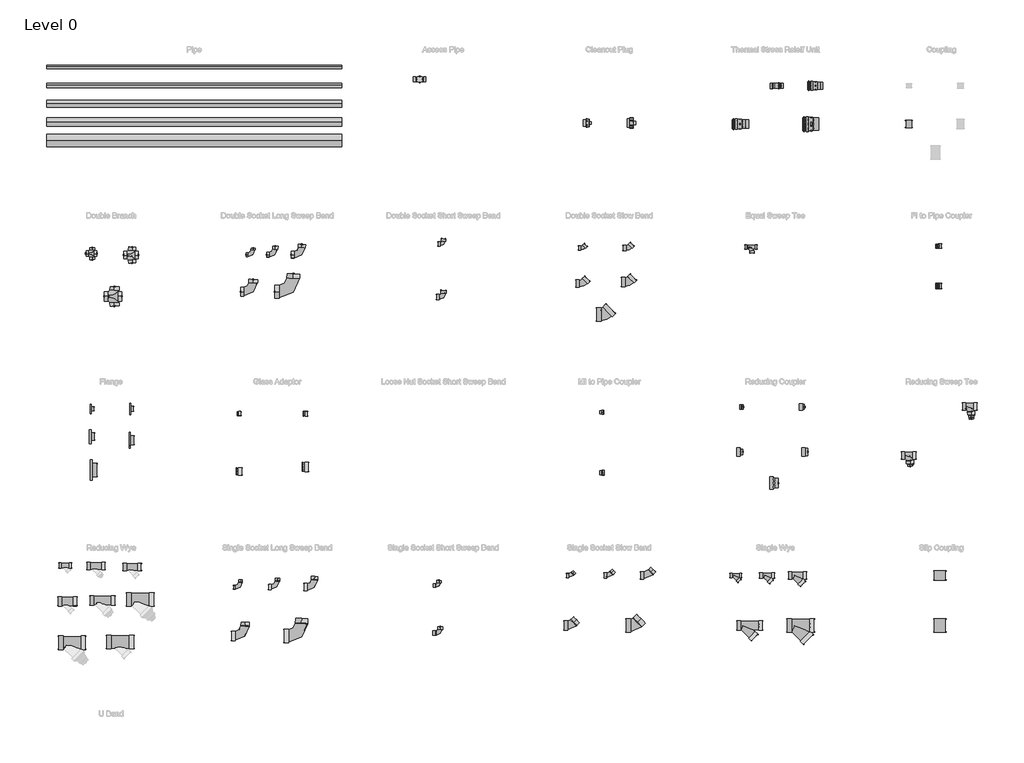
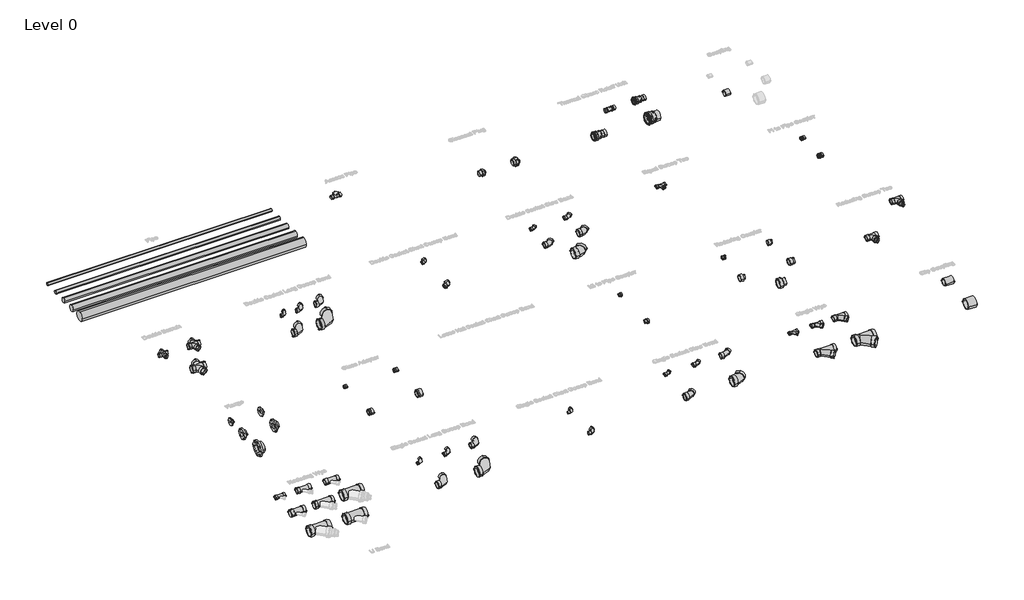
# One storey, part 1 of 10: 71 pipe fittings, 5 pipe segments.
"""IFC4 building model written with IfcOpenShell, lengths in millimetres."""

from ifc_helpers import new_model, si_unit, point, frame, frame_2d, origin, place, context, project, spatial, circle_curve, trimmed, segment, composite_curve, outline, extrude, transform, mapped, element, save
from components import l141_38mm_0ffd552d, l142_51mm_4ce51af9, l151_38mm_5ce0dcf7, l152_51mm_e40eead8, l163_76mm_98f3493b, l164_s_102mm_13951113, l166_s_152mm_c7d2f9af, l171_38mm_267e390a, l172_51mm_e80dca4b, l173_76mm_c5a6e707, l174_102mm_c659d813, l176_152mm_db715026, l181_38mm_b93e07b0, l182_51mm_86aa85f2, l191_38mm_5e0583e1, l192_51mm_1da5b1f7, l193_76mm_1ed979b7, l194_102mm_25cd8729, l196_152mm_a0f9f9bf, l201_38mm_3360234d, l2031_76x76x38mm_6f6c5ed2, l2031_76x76x38mm_b17d972e, l2032_76x76x51mm_12356ed6, l2032_76x76x51mm_d3f29df9, l211_38mm_e0d01717, l212_51mm_df6e6011, l213_76mm_04a1a28b, l214_102mm_08f92101, l216_152mm_cca97ca3, l243_76mm_0481b0c5, l244_102mm_bb0a7bc2, l281_38mm_a0d47e34, l282_51mm_e2ee95dc, l283_76mm_a17f63d7, l284_102mm_153ca288, l286_152mm_ffb08b69, l291_38mm_34a5a30e, l292_51mm_6f686604, l352_51mm_22d35eec, l352_51mm_6a39cfd9, l353_76mm_47fd45bb, l353_76mm_fc432c4a, l354_102mm_f6dbf391, l354_102mm_241b6396, l371_38mm_ee0c1067, l3721_51x51x38mm_4155e39b, l372_51mm_42e2e45f, l3731_76x76x38mm_20f7461c, l373_76mm_3f97b690, l3742_102x102x51mm_a3f06ccc, l3743_102x102x76mm_b6f7215f, l374_102mm_1b7b02f5, l3762_152x152x51mm_5c1595e7, l376_152mm_07512c7d, l3912_51x38mm_b977fdc1, l3923_76x51mm_51930300, l3924_102x51mm_bab0a69e, l3934_102x76mm_afa478de, l3946_152x102mm_5eb670cd, l401_38mm_f3e5b10d, l402_51mm_f2329d77, l403_76mm_9551e2b0, l404_102mm_889d63c8, l406_152mm_0153d5b7, l451_38mm_612f0f0e, l452_51mm_fd796921, l453_76mm_ac4e316f, l454_102mm_f763a294, l802_51mm_1347b56c, l803_76mm_d1b0d75b, l804_102mm_cf3d4d88, l806_152mm_c43d5f0f, l902_51mm_cfe6408b

model = new_model("IFC4")

# Units and contexts
model_context = context("Model", 3, world=origin())
ifc_project = project(units=[si_unit("LENGTHUNIT", "METRE", prefix="MILLI")], contexts=[model_context])

# Site, building, storey
site = spatial("IfcSite", under=ifc_project)
building = spatial("IfcBuilding", under=site)
storey = spatial("IfcBuildingStorey", under=building, Name="Level 0", Elevation=0.0)

# Pipe fittings
placement = place(None, origin())
l141_38mm_shape = l141_38mm_0ffd552d(model_context)
element("IfcPipeFitting", 1, ObjectType="Durapipe_PipeFitting_VulcatheneEnfusion_MItoPipeCoupler_L14 : L141_38mm", at=placement, inside=storey, context=model_context, shape_type="MappedRepresentation", body=[
    mapped(l141_38mm_shape, transform((-385.4847954, 726.6243175, 0.0), x_axis=(1.0, 0.0, 0.0), y_axis=(0.0, 1.0, 0.0), z_axis=(0.0, 0.0, 1.0))),
])
l142_51mm_shape = l142_51mm_4ce51af9(model_context)
element("IfcPipeFitting", 2, ObjectType="Durapipe_PipeFitting_VulcatheneEnfusion_MItoPipeCoupler_L14 : L142_51mm", at=placement, inside=storey, context=model_context, shape_type="MappedRepresentation", body=[
    mapped(l142_51mm_shape, transform((-385.4847954, -93.3756825, 0.0), x_axis=(1.0, 0.0, 0.0), y_axis=(0.0, 1.0, 0.0), z_axis=(0.0, 0.0, 1.0))),
])
l151_38mm_shape = l151_38mm_5ce0dcf7(model_context)
element("IfcPipeFitting", 3, ObjectType="Durapipe_PipeFitting_VulcatheneEnfusion_FItoPipeCoupler_L15 : L151_38mm", at=placement, inside=storey, context=model_context, shape_type="MappedRepresentation", body=[
    mapped(l151_38mm_shape, transform((4174.5152046, 2976.6243175, 0.0), x_axis=(1.0, 0.0, 0.0), y_axis=(0.0, 1.0, 0.0), z_axis=(0.0, 0.0, 1.0))),
])
l152_51mm_shape = l152_51mm_e40eead8(model_context)
element("IfcPipeFitting", 4, ObjectType="Durapipe_PipeFitting_VulcatheneEnfusion_FItoPipeCoupler_L15 : L152_51mm", at=placement, inside=storey, context=model_context, shape_type="MappedRepresentation", body=[
    mapped(l152_51mm_shape, transform((4174.5152046, 2436.6243175, 0.0), x_axis=(1.0, 0.0, 0.0), y_axis=(0.0, 1.0, 0.0), z_axis=(0.0, 0.0, 1.0))),
])
l163_76mm_shape = l163_76mm_98f3493b(model_context)
element("IfcPipeFitting", 5, ObjectType="Durapipe_PipeFitting_VulcatheneEnfusion_Coupling_L16 : L163_76mm", at=placement, inside=storey, context=model_context, shape_type="MappedRepresentation", body=[
    mapped(l163_76mm_shape, transform((3774.5152046, 4630.3388732, 0.0), x_axis=(1.0, 0.0, 0.0), y_axis=(0.0, 1.0, 0.0), z_axis=(0.0, 0.0, 1.0))),
])
l164_s_102mm_shape = l164_s_102mm_13951113(model_context)
element("IfcPipeFitting", 6, ObjectType="Durapipe_PipeFitting_VulcatheneEnfusion_SlipCoupling_L16S : L164(S)_102mm", at=placement, inside=storey, context=model_context, shape_type="MappedRepresentation", body=[
    mapped(l164_s_102mm_shape, transform((4194.5152046, -1483.3756825, 0.0), x_axis=(1.0, 0.0, 0.0), y_axis=(0.0, 1.0, 0.0), z_axis=(0.0, 0.0, 1.0))),
])
l166_s_152mm_shape = l166_s_152mm_c7d2f9af(model_context)
element("IfcPipeFitting", 7, ObjectType="Durapipe_PipeFitting_VulcatheneEnfusion_SlipCoupling_L16S : L166(S)_152mm", at=placement, inside=storey, context=model_context, shape_type="MappedRepresentation", body=[
    mapped(l166_s_152mm_shape, transform((4194.5152046, -2163.3756825, 0.0), x_axis=(1.0, 0.0, 0.0), y_axis=(0.0, 1.0, 0.0), z_axis=(0.0, 0.0, 1.0))),
])
l171_38mm_shape = l171_38mm_267e390a(model_context)
element("IfcPipeFitting", 8, ObjectType="Durapipe_PipeFitting_VulcatheneEnfusion_DoubleSocketLongSweepBend_L17 : L171_38mm", at=placement, inside=storey, context=model_context, shape_type="MappedRepresentation", body=[
    mapped(l171_38mm_shape, transform((-5115.4378919, 2861.1723534, 0.0), x_axis=(1.0, 0.0, 0.0), y_axis=(0.0, 1.0, 0.0), z_axis=(0.0, 0.0, 1.0))),
])
l172_51mm_shape = l172_51mm_e80dca4b(model_context)
element("IfcPipeFitting", 9, ObjectType="Durapipe_PipeFitting_VulcatheneEnfusion_DoubleSocketLongSweepBend_L17 : L172_51mm", at=placement, inside=storey, context=model_context, shape_type="MappedRepresentation", body=[
    mapped(l172_51mm_shape, transform((-4815.4378919, 2861.1723534, 0.0), x_axis=(1.0, 0.0, 0.0), y_axis=(0.0, 1.0, 0.0), z_axis=(0.0, 0.0, 1.0))),
])
l173_76mm_shape = l173_76mm_c5a6e707(model_context)
element("IfcPipeFitting", 10, ObjectType="Durapipe_PipeFitting_VulcatheneEnfusion_DoubleSocketLongSweepBend_L17 : L173_76mm", at=placement, inside=storey, context=model_context, shape_type="MappedRepresentation", body=[
    mapped(l173_76mm_shape, transform((-4455.4378919, 2861.1723534, 0.0), x_axis=(1.0, 0.0, 0.0), y_axis=(0.0, 1.0, 0.0), z_axis=(0.0, 0.0, 1.0))),
])
l174_102mm_shape = l174_102mm_c659d813(model_context)
element("IfcPipeFitting", 11, ObjectType="Durapipe_PipeFitting_VulcatheneEnfusion_DoubleSocketLongSweepBend_L17 : L174_102mm", at=placement, inside=storey, context=model_context, shape_type="MappedRepresentation", body=[
    mapped(l174_102mm_shape, transform((-5115.4378919, 2361.1723534, 0.0), x_axis=(1.0, 0.0, 0.0), y_axis=(0.0, 1.0, 0.0), z_axis=(0.0, 0.0, 1.0))),
])
l176_152mm_shape = l176_152mm_db715026(model_context)
element("IfcPipeFitting", 12, ObjectType="Durapipe_PipeFitting_VulcatheneEnfusion_DoubleSocketLongSweepBend_L17 : L176_152mm", at=placement, inside=storey, context=model_context, shape_type="MappedRepresentation", body=[
    mapped(l176_152mm_shape, transform((-4575.4378919, 2361.1723534, 0.0), x_axis=(1.0, 0.0, 0.0), y_axis=(0.0, 1.0, 0.0), z_axis=(0.0, 0.0, 1.0))),
])
l181_38mm_shape = l181_38mm_b93e07b0(model_context)
element("IfcPipeFitting", 13, ObjectType="Durapipe_PipeFitting_VulcatheneEnfusion_DoubleSocketShortSweepBend_L18 : L181_38mm", at=placement, inside=storey, context=model_context, shape_type="MappedRepresentation", body=[
    mapped(l181_38mm_shape, transform((-2535.4847954, 3006.6243175, 0.0), x_axis=(1.0, 0.0, 0.0), y_axis=(0.0, 1.0, 0.0), z_axis=(0.0, 0.0, 1.0))),
])
l182_51mm_shape = l182_51mm_86aa85f2(model_context)
element("IfcPipeFitting", 14, ObjectType="Durapipe_PipeFitting_VulcatheneEnfusion_DoubleSocketShortSweepBend_L18 : L182_51mm", at=placement, inside=storey, context=model_context, shape_type="MappedRepresentation", body=[
    mapped(l182_51mm_shape, transform((-2535.4847954, 2286.6243175, 0.0), x_axis=(1.0, 0.0, 0.0), y_axis=(0.0, 1.0, 0.0), z_axis=(0.0, 0.0, 1.0))),
])
l191_38mm_shape = l191_38mm_5e0583e1(model_context)
element("IfcPipeFitting", 15, ObjectType="Durapipe_PipeFitting_VulcatheneEnfusion_DoubleSocketSlowBend_L19 : L191_38mm", at=placement, inside=storey, context=model_context, shape_type="MappedRepresentation", body=[
    mapped(l191_38mm_shape, transform((-645.4847954, 2951.6243175, 0.0), x_axis=(1.0, 0.0, 0.0), y_axis=(0.0, 1.0, 0.0), z_axis=(0.0, 0.0, 1.0))),
])
l192_51mm_shape = l192_51mm_1da5b1f7(model_context)
element("IfcPipeFitting", 16, ObjectType="Durapipe_PipeFitting_VulcatheneEnfusion_DoubleSocketSlowBend_L19 : L192_51mm", at=placement, inside=storey, context=model_context, shape_type="MappedRepresentation", body=[
    mapped(l192_51mm_shape, transform((-25.4847954, 2951.6243175, 0.0), x_axis=(1.0, 0.0, 0.0), y_axis=(0.0, 1.0, 0.0), z_axis=(0.0, 0.0, 1.0))),
])
l193_76mm_shape = l193_76mm_1ed979b7(model_context)
element("IfcPipeFitting", 17, ObjectType="Durapipe_PipeFitting_VulcatheneEnfusion_DoubleSocketSlowBend_L19 : L193_76mm", at=placement, inside=storey, context=model_context, shape_type="MappedRepresentation", body=[
    mapped(l193_76mm_shape, transform((-645.4847954, 2471.6243175, 0.0), x_axis=(1.0, 0.0, 0.0), y_axis=(0.0, 1.0, 0.0), z_axis=(0.0, 0.0, 1.0))),
])
l194_102mm_shape = l194_102mm_25cd8729(model_context)
element("IfcPipeFitting", 18, ObjectType="Durapipe_PipeFitting_VulcatheneEnfusion_DoubleSocketSlowBend_L19 : L194_102mm", at=placement, inside=storey, context=model_context, shape_type="MappedRepresentation", body=[
    mapped(l194_102mm_shape, transform((-25.4847954, 2491.6243175, 0.0), x_axis=(1.0, 0.0, 0.0), y_axis=(0.0, 1.0, 0.0), z_axis=(0.0, 0.0, 1.0))),
])
l196_152mm_shape = l196_152mm_a0f9f9bf(model_context)
element("IfcPipeFitting", 19, ObjectType="Durapipe_PipeFitting_VulcatheneEnfusion_DoubleSocketSlowBend_L19 : L196_152mm", at=placement, inside=storey, context=model_context, shape_type="MappedRepresentation", body=[
    mapped(l196_152mm_shape, transform((-345.4847954, 2051.6243175, 0.0), x_axis=(1.0, 0.0, 0.0), y_axis=(0.0, 1.0, 0.0), z_axis=(0.0, 0.0, 1.0))),
])
l201_38mm_shape = l201_38mm_3360234d(model_context)
element("IfcPipeFitting", 20, ObjectType="Durapipe_PipeFitting_VulcatheneEnfusion_EqualSweepTee_L20 : L201_38mm", at=placement, inside=storey, context=model_context, shape_type="MappedRepresentation", body=[
    mapped(l201_38mm_shape, transform((1644.5152046, 2966.6243175, 0.0), x_axis=(1.0, 0.0, 0.0), y_axis=(0.0, 1.0, 0.0), z_axis=(0.0, 0.0, 1.0))),
])
l2031_76x76x38mm_shape = l2031_76x76x38mm_6f6c5ed2(model_context)
l2031_76x76x38mm_2_shape = l2031_76x76x38mm_b17d972e(model_context)
element("IfcPipeFitting", 21, ObjectType="Durapipe_PipeFitting_VulcatheneEnfusion_ReducingSweepTee_L20 : L2031_76x76x38mm", at=placement, inside=storey, context=model_context, shape_type="MappedRepresentation", body=[
    mapped(l2031_76x76x38mm_shape, transform((4614.5152046, 806.6243175, 0.0), x_axis=(1.0, 0.0, 0.0), y_axis=(0.0, 1.0, 0.0), z_axis=(0.0, 0.0, 1.0))),
    mapped(l2031_76x76x38mm_2_shape, transform((4614.5152046, 806.6243175, 0.0), x_axis=(1.0, 0.0, 0.0), y_axis=(0.0, 1.0, 0.0), z_axis=(0.0, 0.0, 1.0))),
])
l2032_76x76x51mm_shape = l2032_76x76x51mm_12356ed6(model_context)
l2032_76x76x51mm_2_shape = l2032_76x76x51mm_d3f29df9(model_context)
element("IfcPipeFitting", 22, ObjectType="Durapipe_PipeFitting_VulcatheneEnfusion_ReducingSweepTee_L20 : L2032_76x76x51mm", at=placement, inside=storey, context=model_context, shape_type="MappedRepresentation", body=[
    mapped(l2032_76x76x51mm_shape, transform((3787.0099501, 143.0899034, 0.0), x_axis=(1.0, 0.0, 0.0), y_axis=(0.0, 1.0, 0.0), z_axis=(0.0, 0.0, 1.0))),
    mapped(l2032_76x76x51mm_2_shape, transform((3787.0099501, 143.0899034, 0.0), x_axis=(1.0, 0.0, 0.0), y_axis=(0.0, 1.0, 0.0), z_axis=(0.0, 0.0, 1.0))),
])
l211_38mm_shape = l211_38mm_e0d01717(model_context)
element("IfcPipeFitting", 23, ObjectType="Durapipe_PipeFitting_VulcatheneEnfusion_SingleSocketSlowBend_L21 : L211_38mm", at=placement, inside=storey, context=model_context, shape_type="MappedRepresentation", body=[
    mapped(l211_38mm_shape, transform((-805.4847954, -1483.3756825, 0.0), x_axis=(1.0, 0.0, 0.0), y_axis=(0.0, 1.0, 0.0), z_axis=(0.0, 0.0, 1.0))),
])
l212_51mm_shape = l212_51mm_df6e6011(model_context)
element("IfcPipeFitting", 24, ObjectType="Durapipe_PipeFitting_VulcatheneEnfusion_SingleSocketSlowBend_L21 : L212_51mm", at=placement, inside=storey, context=model_context, shape_type="MappedRepresentation", body=[
    mapped(l212_51mm_shape, transform((-285.4847954, -1483.3756825, 0.0), x_axis=(1.0, 0.0, 0.0), y_axis=(0.0, 1.0, 0.0), z_axis=(0.0, 0.0, 1.0))),
])
l213_76mm_shape = l213_76mm_04a1a28b(model_context)
element("IfcPipeFitting", 25, ObjectType="Durapipe_PipeFitting_VulcatheneEnfusion_SingleSocketSlowBend_L21 : L213_76mm", at=placement, inside=storey, context=model_context, shape_type="MappedRepresentation", body=[
    mapped(l213_76mm_shape, transform((234.5152046, -1483.3756825, 0.0), x_axis=(1.0, 0.0, 0.0), y_axis=(0.0, 1.0, 0.0), z_axis=(0.0, 0.0, 1.0))),
])
l214_102mm_shape = l214_102mm_08f92101(model_context)
element("IfcPipeFitting", 26, ObjectType="Durapipe_PipeFitting_VulcatheneEnfusion_SingleSocketSlowBend_L21 : L214_102mm", at=placement, inside=storey, context=model_context, shape_type="MappedRepresentation", body=[
    mapped(l214_102mm_shape, transform((-805.4847954, -2163.3756825, 0.0), x_axis=(1.0, 0.0, 0.0), y_axis=(0.0, 1.0, 0.0), z_axis=(0.0, 0.0, 1.0))),
])
l216_152mm_shape = l216_152mm_cca97ca3(model_context)
element("IfcPipeFitting", 27, ObjectType="Durapipe_PipeFitting_VulcatheneEnfusion_SingleSocketSlowBend_L21 : L216_152mm", at=placement, inside=storey, context=model_context, shape_type="MappedRepresentation", body=[
    mapped(l216_152mm_shape, transform((54.5152046, -2163.3756825, 0.0), x_axis=(1.0, 0.0, 0.0), y_axis=(0.0, 1.0, 0.0), z_axis=(0.0, 0.0, 1.0))),
])
l243_76mm_shape = l243_76mm_0481b0c5(model_context)
element("IfcPipeFitting", 28, ObjectType="Durapipe_PipeFitting_VulcatheneEnfusion_CleanoutPlug_L24 : L243_76mm", at=placement, inside=storey, context=model_context, shape_type="MappedRepresentation", body=[
    mapped(l243_76mm_shape, transform((-585.4847954, 4646.6243175, 0.0), x_axis=(1.0, 0.0, 0.0), y_axis=(0.0, 1.0, 0.0), z_axis=(0.0, 0.0, 1.0))),
])
l244_102mm_shape = l244_102mm_bb0a7bc2(model_context)
element("IfcPipeFitting", 29, ObjectType="Durapipe_PipeFitting_VulcatheneEnfusion_CleanoutPlug_L24 : L244_102mm", at=placement, inside=storey, context=model_context, shape_type="MappedRepresentation", body=[
    mapped(l244_102mm_shape, transform((14.5152046, 4646.6243175, 0.0), x_axis=(1.0, 0.0, 0.0), y_axis=(0.0, 1.0, 0.0), z_axis=(0.0, 0.0, 1.0))),
])
l281_38mm_shape = l281_38mm_a0d47e34(model_context)
element("IfcPipeFitting", 30, ObjectType="Durapipe_PipeFitting_VulcatheneEnfusion_SingleSocketLongSweepBend_L28 : L281_38mm", at=placement, inside=storey, context=model_context, shape_type="MappedRepresentation", body=[
    mapped(l281_38mm_shape, transform((-5285.4847954, -1643.3756825, 0.0), x_axis=(1.0, 0.0, 0.0), y_axis=(0.0, 1.0, 0.0), z_axis=(0.0, 0.0, 1.0))),
])
l282_51mm_shape = l282_51mm_e2ee95dc(model_context)
element("IfcPipeFitting", 31, ObjectType="Durapipe_PipeFitting_VulcatheneEnfusion_SingleSocketLongSweepBend_L28 : L282_51mm", at=placement, inside=storey, context=model_context, shape_type="MappedRepresentation", body=[
    mapped(l282_51mm_shape, transform((-4785.4847954, -1643.3756825, 0.0), x_axis=(1.0, 0.0, 0.0), y_axis=(0.0, 1.0, 0.0), z_axis=(0.0, 0.0, 1.0))),
])
l283_76mm_shape = l283_76mm_a17f63d7(model_context)
element("IfcPipeFitting", 32, ObjectType="Durapipe_PipeFitting_VulcatheneEnfusion_SingleSocketLongSweepBend_L28 : L283_76mm", at=placement, inside=storey, context=model_context, shape_type="MappedRepresentation", body=[
    mapped(l283_76mm_shape, transform((-4285.4847954, -1643.3756825, 0.0), x_axis=(1.0, 0.0, 0.0), y_axis=(0.0, 1.0, 0.0), z_axis=(0.0, 0.0, 1.0))),
])
l284_102mm_shape = l284_102mm_153ca288(model_context)
element("IfcPipeFitting", 33, ObjectType="Durapipe_PipeFitting_VulcatheneEnfusion_SingleSocketLongSweepBend_L28 : L284_102mm", at=placement, inside=storey, context=model_context, shape_type="MappedRepresentation", body=[
    mapped(l284_102mm_shape, transform((-5225.4847954, -2303.3756825, 0.0), x_axis=(1.0, 0.0, 0.0), y_axis=(0.0, 1.0, 0.0), z_axis=(0.0, 0.0, 1.0))),
])
l286_152mm_shape = l286_152mm_ffb08b69(model_context)
element("IfcPipeFitting", 34, ObjectType="Durapipe_PipeFitting_VulcatheneEnfusion_SingleSocketLongSweepBend_L28 : L286_152mm", at=placement, inside=storey, context=model_context, shape_type="MappedRepresentation", body=[
    mapped(l286_152mm_shape, transform((-4465.4847954, -2303.3756825, 0.0), x_axis=(1.0, 0.0, 0.0), y_axis=(0.0, 1.0, 0.0), z_axis=(0.0, 0.0, 1.0))),
])
l291_38mm_shape = l291_38mm_34a5a30e(model_context)
element("IfcPipeFitting", 35, ObjectType="Durapipe_PipeFitting_VulcatheneEnfusion_SingleSocketShortSweepBend_L29 : L291_38mm", at=placement, inside=storey, context=model_context, shape_type="MappedRepresentation", body=[
    mapped(l291_38mm_shape, transform((-2594.6065384, -1622.0052795, 0.0), x_axis=(1.0, 0.0, 0.0), y_axis=(0.0, 1.0, 0.0), z_axis=(0.0, 0.0, 1.0))),
])
l292_51mm_shape = l292_51mm_6f686604(model_context)
element("IfcPipeFitting", 36, ObjectType="Durapipe_PipeFitting_VulcatheneEnfusion_SingleSocketShortSweepBend_L29 : L292_51mm", at=placement, inside=storey, context=model_context, shape_type="MappedRepresentation", body=[
    mapped(l292_51mm_shape, transform((-2579.5496555, -2264.1921647, 0.0), x_axis=(1.0, 0.0, 0.0), y_axis=(0.0, 1.0, 0.0), z_axis=(0.0, 0.0, 1.0))),
])
l352_51mm_shape = l352_51mm_22d35eec(model_context)
l352_51mm_2_shape = l352_51mm_6a39cfd9(model_context)
element("IfcPipeFitting", 37, ObjectType="Durapipe_PipeFitting_VulcatheneEnfusion_DoubleBranch_L35 : L352_51mm", at=placement, inside=storey, context=model_context, shape_type="MappedRepresentation", body=[
    mapped(l352_51mm_shape, transform((-7295.4847954, 2876.6243175, 0.0), x_axis=(1.0, 0.0, 0.0), y_axis=(0.0, 1.0, 0.0), z_axis=(0.0, 0.0, 1.0))),
    mapped(l352_51mm_2_shape, transform((-7295.4847954, 2876.6243175, 0.0), x_axis=(1.0, 0.0, 0.0), y_axis=(0.0, 1.0, 0.0), z_axis=(0.0, 0.0, 1.0))),
])
l353_76mm_shape = l353_76mm_47fd45bb(model_context)
l353_76mm_2_shape = l353_76mm_fc432c4a(model_context)
element("IfcPipeFitting", 38, ObjectType="Durapipe_PipeFitting_VulcatheneEnfusion_DoubleBranch_L35 : L353_76mm", at=placement, inside=storey, context=model_context, shape_type="MappedRepresentation", body=[
    mapped(l353_76mm_shape, transform((-6755.4847954, 2856.6243175, 0.0), x_axis=(1.0, 0.0, 0.0), y_axis=(0.0, 1.0, 0.0), z_axis=(0.0, 0.0, 1.0))),
    mapped(l353_76mm_2_shape, transform((-6755.4847954, 2856.6243175, 0.0), x_axis=(1.0, 0.0, 0.0), y_axis=(0.0, 1.0, 0.0), z_axis=(0.0, 0.0, 1.0))),
])
l354_102mm_shape = l354_102mm_f6dbf391(model_context)
l354_102mm_2_shape = l354_102mm_241b6396(model_context)
element("IfcPipeFitting", 39, ObjectType="Durapipe_PipeFitting_VulcatheneEnfusion_DoubleBranch_L35 : L354_102mm", at=placement, inside=storey, context=model_context, shape_type="MappedRepresentation", body=[
    mapped(l354_102mm_shape, transform((-6995.4847954, 2296.6243175, 0.0), x_axis=(1.0, 0.0, 0.0), y_axis=(0.0, 1.0, 0.0), z_axis=(0.0, 0.0, 1.0))),
    mapped(l354_102mm_2_shape, transform((-6995.4847954, 2296.6243175, 0.0), x_axis=(1.0, 0.0, 0.0), y_axis=(0.0, 1.0, 0.0), z_axis=(0.0, 0.0, 1.0))),
])
l371_38mm_shape = l371_38mm_ee0c1067(model_context)
element("IfcPipeFitting", 40, ObjectType="Durapipe_PipeFitting_VulcatheneEnfusion_SingleWye_L37 : L371_38mm", at=placement, inside=storey, context=model_context, shape_type="MappedRepresentation", body=[
    mapped(l371_38mm_shape, transform((1402.6049352, -1483.3756825, 0.0), x_axis=(1.0, 0.0, 0.0), y_axis=(0.0, 1.0, 0.0), z_axis=(0.0, 0.0, 1.0))),
])
l3721_51x51x38mm_shape = l3721_51x51x38mm_4155e39b(model_context)
element("IfcPipeFitting", 41, ObjectType="Durapipe_PipeFitting_VulcatheneEnfusion_SingleReducingWye_L37 : L3721_51x51x38mm", at=placement, inside=storey, context=model_context, shape_type="MappedRepresentation", body=[
    mapped(l3721_51x51x38mm_shape, transform((-7684.9184508, -1349.833701, 0.0), x_axis=(1.0, 0.0, 0.0), y_axis=(0.0, 1.0, 0.0), z_axis=(0.0, 0.0, 1.0))),
])
l372_51mm_shape = l372_51mm_42e2e45f(model_context)
element("IfcPipeFitting", 42, ObjectType="Durapipe_PipeFitting_VulcatheneEnfusion_SingleWye_L37 : L372_51mm", at=placement, inside=storey, context=model_context, shape_type="MappedRepresentation", body=[
    mapped(l372_51mm_shape, transform((1822.6049352, -1483.3756825, 0.0), x_axis=(1.0, 0.0, 0.0), y_axis=(0.0, 1.0, 0.0), z_axis=(0.0, 0.0, 1.0))),
])
l3731_76x76x38mm_shape = l3731_76x76x38mm_20f7461c(model_context)
element("IfcPipeFitting", 43, ObjectType="Durapipe_PipeFitting_VulcatheneEnfusion_SingleReducingWye_L37 : L3731_76x76x38mm", at=placement, inside=storey, context=model_context, shape_type="MappedRepresentation", body=[
    mapped(l3731_76x76x38mm_shape, transform((-7303.528328, -1356.5247558, 0.0), x_axis=(1.0, 0.0, 0.0), y_axis=(0.0, 1.0, 0.0), z_axis=(0.0, 0.0, 1.0))),
])
element("IfcPipeFitting", 44, ObjectType="Durapipe_PipeFitting_VulcatheneEnfusion_SingleReducingWye_L37 : L3732_76x76x51mm", at=placement, inside=storey, context=model_context, shape_type="MappedRepresentation", body=[
    mapped(l3731_76x76x38mm_shape, transform((-6811.7358014, -1369.9068654, 0.0), x_axis=(1.0, 0.0, 0.0), y_axis=(0.0, 1.0, 0.0), z_axis=(0.0, 0.0, 1.0))),
])
l373_76mm_shape = l373_76mm_3f97b690(model_context)
element("IfcPipeFitting", 45, ObjectType="Durapipe_PipeFitting_VulcatheneEnfusion_SingleWye_L37 : L373_76mm", at=placement, inside=storey, context=model_context, shape_type="MappedRepresentation", body=[
    mapped(l373_76mm_shape, transform((2222.6049352, -1483.3756825, 0.0), x_axis=(1.0, 0.0, 0.0), y_axis=(0.0, 1.0, 0.0), z_axis=(0.0, 0.0, 1.0))),
])
l3742_102x102x51mm_shape = l3742_102x102x51mm_a3f06ccc(model_context)
element("IfcPipeFitting", 46, ObjectType="Durapipe_PipeFitting_VulcatheneEnfusion_SingleReducingWye_L37 : L3742_102x102x51mm", at=placement, inside=storey, context=model_context, shape_type="MappedRepresentation", body=[
    mapped(l3742_102x102x51mm_shape, transform((-7704.9916151, -1834.9351729, 0.0), x_axis=(1.0, 0.0, 0.0), y_axis=(0.0, 1.0, 0.0), z_axis=(0.0, 0.0, 1.0))),
])
l3743_102x102x76mm_shape = l3743_102x102x76mm_b6f7215f(model_context)
element("IfcPipeFitting", 47, ObjectType="Durapipe_PipeFitting_VulcatheneEnfusion_SingleReducingWye_L37 : L3743_102x102x76mm", at=placement, inside=storey, context=model_context, shape_type="MappedRepresentation", body=[
    mapped(l3743_102x102x76mm_shape, transform((-7236.6177802, -1824.8985908, 0.0), x_axis=(1.0, 0.0, 0.0), y_axis=(0.0, 1.0, 0.0), z_axis=(0.0, 0.0, 1.0))),
])
l374_102mm_shape = l374_102mm_1b7b02f5(model_context)
element("IfcPipeFitting", 48, ObjectType="Durapipe_PipeFitting_VulcatheneEnfusion_SingleWye_L37 : L374_102mm", at=placement, inside=storey, context=model_context, shape_type="MappedRepresentation", body=[
    mapped(l374_102mm_shape, transform((1523.1445158, -2163.3756825, 0.0), x_axis=(1.0, 0.0, 0.0), y_axis=(0.0, 1.0, 0.0), z_axis=(0.0, 0.0, 1.0))),
])
l3762_152x152x51mm_shape = l3762_152x152x51mm_5c1595e7(model_context)
element("IfcPipeFitting", 49, ObjectType="Durapipe_PipeFitting_VulcatheneEnfusion_SingleReducingWye_L37 : L3762_152x152x51mm", at=placement, inside=storey, context=model_context, shape_type="MappedRepresentation", body=[
    mapped(l3762_152x152x51mm_shape, transform((-6725.3922315, -1810.8490151, 0.0), x_axis=(1.0, 0.0, 0.0), y_axis=(0.0, 1.0, 0.0), z_axis=(0.0, 0.0, 1.0))),
])
element("IfcPipeFitting", 50, ObjectType="Durapipe_PipeFitting_VulcatheneEnfusion_SingleReducingWye_L37 : L3763_152x152x76mm", at=placement, inside=storey, context=model_context, shape_type="MappedRepresentation", body=[
    mapped(l3762_152x152x51mm_shape, transform((-7648.1176495, -2396.4716244, 0.0), x_axis=(1.0, 0.0, 0.0), y_axis=(0.0, 1.0, 0.0), z_axis=(0.0, 0.0, 1.0))),
])
element("IfcPipeFitting", 51, ObjectType="Durapipe_PipeFitting_VulcatheneEnfusion_SingleReducingWye_L37 : L3764_152x152x102mm", at=placement, inside=storey, context=model_context, shape_type="MappedRepresentation", body=[
    mapped(l3762_152x152x51mm_shape, transform((-6996.3850168, -2387.1280443, 0.0), x_axis=(1.0, 0.0, 0.0), y_axis=(0.0, 1.0, 0.0), z_axis=(0.0, 0.0, 1.0))),
])
l376_152mm_shape = l376_152mm_07512c7d(model_context)
element("IfcPipeFitting", 52, ObjectType="Durapipe_PipeFitting_VulcatheneEnfusion_SingleWye_L37 : L376_152mm", at=placement, inside=storey, context=model_context, shape_type="MappedRepresentation", body=[
    mapped(l376_152mm_shape, transform((2222.6049352, -2163.3756825, 0.0), x_axis=(1.0, 0.0, 0.0), y_axis=(0.0, 1.0, 0.0), z_axis=(0.0, 0.0, 1.0))),
])
l3912_51x38mm_shape = l3912_51x38mm_b977fdc1(model_context)
element("IfcPipeFitting", 53, ObjectType="Durapipe_PipeFitting_VulcatheneEnfusion_ReducingCoupler_L39 : L3912_51x38mm", at=placement, inside=storey, context=model_context, shape_type="MappedRepresentation", body=[
    mapped(l3912_51x38mm_shape, transform((1505.0547852, 798.3868969, 0.0), x_axis=(1.0, 0.0, 0.0), y_axis=(0.0, 1.0, 0.0), z_axis=(0.0, 0.0, 1.0))),
])
l3923_76x51mm_shape = l3923_76x51mm_51930300(model_context)
element("IfcPipeFitting", 54, ObjectType="Durapipe_PipeFitting_VulcatheneEnfusion_ReducingCoupler_L39 : L3923_76x51mm", at=placement, inside=storey, context=model_context, shape_type="MappedRepresentation", body=[
    mapped(l3923_76x51mm_shape, transform((2325.0547852, 798.3868969, 0.0), x_axis=(1.0, 0.0, 0.0), y_axis=(0.0, 1.0, 0.0), z_axis=(0.0, 0.0, 1.0))),
])
l3924_102x51mm_shape = l3924_102x51mm_bab0a69e(model_context)
element("IfcPipeFitting", 55, ObjectType="Durapipe_PipeFitting_VulcatheneEnfusion_ReducingCoupler_L39 : L3924_102x51mm", at=placement, inside=storey, context=model_context, shape_type="MappedRepresentation", body=[
    mapped(l3924_102x51mm_shape, transform((1480.8236083, 189.9210092, 0.0), x_axis=(1.0, 0.0, 0.0), y_axis=(0.0, 1.0, 0.0), z_axis=(0.0, 0.0, 1.0))),
])
l3934_102x76mm_shape = l3934_102x76mm_afa478de(model_context)
element("IfcPipeFitting", 56, ObjectType="Durapipe_PipeFitting_VulcatheneEnfusion_ReducingCoupler_L39 : L3934_102x76mm", at=placement, inside=storey, context=model_context, shape_type="MappedRepresentation", body=[
    mapped(l3934_102x76mm_shape, transform((2360.8236083, 189.9210092, 0.0), x_axis=(1.0, 0.0, 0.0), y_axis=(0.0, 1.0, 0.0), z_axis=(0.0, 0.0, 1.0))),
])
l3946_152x102mm_shape = l3946_152x102mm_5eb670cd(model_context)
element("IfcPipeFitting", 57, ObjectType="Durapipe_PipeFitting_VulcatheneEnfusion_ReducingCoupler_L39 : L3946_152x102mm", at=placement, inside=storey, context=model_context, shape_type="MappedRepresentation", body=[
    mapped(l3946_152x102mm_shape, transform((1944.5152046, -233.3756825, 0.0), x_axis=(1.0, 0.0, 0.0), y_axis=(0.0, 1.0, 0.0), z_axis=(0.0, 0.0, 1.0))),
])
l401_38mm_shape = l401_38mm_f3e5b10d(model_context)
element("IfcPipeFitting", 58, ObjectType="Durapipe_PipeFitting_VulcatheneEnfusion_Flange_L40 : L401 - 38mm", at=placement, inside=storey, context=model_context, shape_type="MappedRepresentation", body=[
    mapped(l401_38mm_shape, transform((-7296.4583206, 771.9434889, 0.0), x_axis=(1.0, 0.0, 0.0), y_axis=(0.0, 1.0, 0.0), z_axis=(0.0, 0.0, 1.0))),
])
l402_51mm_shape = l402_51mm_f2329d77(model_context)
element("IfcPipeFitting", 59, ObjectType="Durapipe_PipeFitting_VulcatheneEnfusion_Flange_L40 : L402 - 51mm", at=placement, inside=storey, context=model_context, shape_type="MappedRepresentation", body=[
    mapped(l402_51mm_shape, transform((-6761.2603726, 771.9434889, 0.0), x_axis=(1.0, 0.0, 0.0), y_axis=(0.0, 1.0, 0.0), z_axis=(0.0, 0.0, 1.0))),
])
l403_76mm_shape = l403_76mm_9551e2b0(model_context)
element("IfcPipeFitting", 60, ObjectType="Durapipe_PipeFitting_VulcatheneEnfusion_Flange_L40 : L403 - 76mm", at=placement, inside=storey, context=model_context, shape_type="MappedRepresentation", body=[
    mapped(l403_76mm_shape, transform((-7296.4583206, 396.3602459, 0.0), x_axis=(1.0, 0.0, 0.0), y_axis=(0.0, 1.0, 0.0), z_axis=(0.0, 0.0, 1.0))),
])
l404_102mm_shape = l404_102mm_889d63c8(model_context)
element("IfcPipeFitting", 61, ObjectType="Durapipe_PipeFitting_VulcatheneEnfusion_Flange_L40 : L404 - 102mm", at=placement, inside=storey, context=model_context, shape_type="MappedRepresentation", body=[
    mapped(l404_102mm_shape, transform((-6761.2603726, 347.8978919, 0.0), x_axis=(1.0, 0.0, 0.0), y_axis=(0.0, 1.0, 0.0), z_axis=(0.0, 0.0, 1.0))),
])
l406_152mm_shape = l406_152mm_0153d5b7(model_context)
element("IfcPipeFitting", 62, ObjectType="Durapipe_PipeFitting_VulcatheneEnfusion_Flange_L40 : L406 - 152mm", at=placement, inside=storey, context=model_context, shape_type="MappedRepresentation", body=[
    mapped(l406_152mm_shape, transform((-7273.5583206, -58.7592106, 0.0), x_axis=(1.0, 0.0, 0.0), y_axis=(0.0, 1.0, 0.0), z_axis=(0.0, 0.0, 1.0))),
])
l451_38mm_shape = l451_38mm_612f0f0e(model_context)
element("IfcPipeFitting", 63, ObjectType="Durapipe_PipeFitting_VulcatheneEnfusion_GlassAdaptor_L45 : L451_38mm", at=placement, inside=storey, context=model_context, shape_type="MappedRepresentation", body=[
    mapped(l451_38mm_shape, transform((-5305.4847954, 706.6243175, 0.0), x_axis=(1.0, 0.0, 0.0), y_axis=(0.0, 1.0, 0.0), z_axis=(0.0, 0.0, 1.0))),
])
l452_51mm_shape = l452_51mm_fd796921(model_context)
element("IfcPipeFitting", 64, ObjectType="Durapipe_PipeFitting_VulcatheneEnfusion_GlassAdaptor_L45 : L452_51mm", at=placement, inside=storey, context=model_context, shape_type="MappedRepresentation", body=[
    mapped(l452_51mm_shape, transform((-4405.4847954, 706.6243175, 0.0), x_axis=(1.0, 0.0, 0.0), y_axis=(0.0, 1.0, 0.0), z_axis=(0.0, 0.0, 1.0))),
])
l453_76mm_shape = l453_76mm_ac4e316f(model_context)
element("IfcPipeFitting", 65, ObjectType="Durapipe_PipeFitting_VulcatheneEnfusion_GlassAdaptor_L45 : L453_76mm", at=placement, inside=storey, context=model_context, shape_type="MappedRepresentation", body=[
    mapped(l453_76mm_shape, transform((-5305.4847954, -73.3756825, 0.0), x_axis=(1.0, 0.0, 0.0), y_axis=(0.0, 1.0, 0.0), z_axis=(0.0, 0.0, 1.0))),
])
l454_102mm_shape = l454_102mm_f763a294(model_context)
element("IfcPipeFitting", 66, ObjectType="Durapipe_PipeFitting_VulcatheneEnfusion_GlassAdaptor_L45 : L454_102mm", at=placement, inside=storey, context=model_context, shape_type="MappedRepresentation", body=[
    mapped(l454_102mm_shape, transform((-4405.4847954, -13.3756825, 0.0), x_axis=(1.0, 0.0, 0.0), y_axis=(0.0, 1.0, 0.0), z_axis=(0.0, 0.0, 1.0))),
])
l802_51mm_shape = l802_51mm_1347b56c(model_context)
element("IfcPipeFitting", 67, ObjectType="Durapipe_PipeFitting_VulcatheneEnfusion_ThermalStressReliefUnit_L80 : L802_51mm", at=placement, inside=storey, context=model_context, shape_type="MappedRepresentation", body=[
    mapped(l802_51mm_shape, transform((1984.5152046, 5150.3388732, 0.0), x_axis=(1.0, 0.0, 0.0), y_axis=(0.0, 1.0, 0.0), z_axis=(0.0, 0.0, 1.0))),
])
l803_76mm_shape = l803_76mm_d1b0d75b(model_context)
element("IfcPipeFitting", 68, ObjectType="Durapipe_PipeFitting_VulcatheneEnfusion_ThermalStressReliefUnit_L80 : L803_76mm", at=placement, inside=storey, context=model_context, shape_type="MappedRepresentation", body=[
    mapped(l803_76mm_shape, transform((2504.5152046, 5150.3388732, 0.0), x_axis=(1.0, 0.0, 0.0), y_axis=(0.0, 1.0, 0.0), z_axis=(0.0, 0.0, 1.0))),
])
l804_102mm_shape = l804_102mm_cf3d4d88(model_context)
element("IfcPipeFitting", 69, ObjectType="Durapipe_PipeFitting_VulcatheneEnfusion_ThermalStressReliefUnit_L80 : L804_102mm", at=placement, inside=storey, context=model_context, shape_type="MappedRepresentation", body=[
    mapped(l804_102mm_shape, transform((1494.5152046, 4630.3388732, 0.0), x_axis=(1.0, 0.0, 0.0), y_axis=(0.0, 1.0, 0.0), z_axis=(0.0, 0.0, 1.0))),
])
l806_152mm_shape = l806_152mm_c43d5f0f(model_context)
element("IfcPipeFitting", 70, ObjectType="Durapipe_PipeFitting_VulcatheneEnfusion_ThermalStressReliefUnit_L80 : L806_152mm", at=placement, inside=storey, context=model_context, shape_type="MappedRepresentation", body=[
    mapped(l806_152mm_shape, transform((2444.5152046, 4630.3388732, 0.0), x_axis=(1.0, 0.0, 0.0), y_axis=(0.0, 1.0, 0.0), z_axis=(0.0, 0.0, 1.0))),
])
l902_51mm_shape = l902_51mm_cfe6408b(model_context)
element("IfcPipeFitting", 71, ObjectType="Durapipe_PipeFitting_VulcatheneEnfusion_AccessPipe_L90 : L902_51mm", at=placement, inside=storey, context=model_context, shape_type="MappedRepresentation", body=[
    mapped(l902_51mm_shape, transform((-2855.4847954, 5236.6243175, 0.0), x_axis=(1.0, 0.0, 0.0), y_axis=(0.0, 1.0, 0.0), z_axis=(0.0, 0.0, 1.0))),
])

# Pipe segments
element("IfcPipeSegment", 72, ObjectType="Durapipe Vulcathene Enfusion", at=placement, inside=storey, context=model_context, shape_type="SweptSolid", body=[
    extrude(outline(composite_curve([segment(trimmed(circle_curve(frame_2d((5406.6243175, 0.0)), 24.15), [point((5382.4743175, 0.0))], [point((5406.6243175, 24.15))], False, "CARTESIAN"), True, "CONTINUOUS"), segment(trimmed(circle_curve(frame_2d((5406.6243175, 0.0)), 24.15), [point((5406.6243175, 24.15))], [point((5430.7743175, 0.0))], False, "CARTESIAN"), True, "CONTINUOUS"), segment(trimmed(circle_curve(frame_2d((5406.6243175, 0.0)), 24.15), [point((5430.7743175, 0.0))], [point((5406.6243175, -24.15))], False, "CARTESIAN"), True, "CONTINUOUS"), segment(trimmed(circle_curve(frame_2d((5406.6243175, 0.0)), 24.15), [point((5406.6243175, -24.15))], [point((5382.4743175, 0.0))], False, "CARTESIAN"), True, "CONTINUOUS")], self_intersect=False)), frame((-7910.4847954, 0.0, 0.0), z_axis=(1.0, 0.0, 0.0), x_axis=(0.0, 1.0, 0.0)), (0.0, 0.0, 1.0), 4000.0),
])
element("IfcPipeSegment", 73, ObjectType="Durapipe Vulcathene Enfusion", at=placement, inside=storey, context=model_context, shape_type="SweptSolid", body=[
    extrude(outline(composite_curve([segment(trimmed(circle_curve(frame_2d((5156.6243175, 0.0)), 30.15), [point((5126.4743175, 0.0))], [point((5156.6243175, 30.15))], False, "CARTESIAN"), True, "CONTINUOUS"), segment(trimmed(circle_curve(frame_2d((5156.6243175, 0.0)), 30.15), [point((5156.6243175, 30.15))], [point((5186.7743175, 0.0))], False, "CARTESIAN"), True, "CONTINUOUS"), segment(trimmed(circle_curve(frame_2d((5156.6243175, 0.0)), 30.15), [point((5186.7743175, 0.0))], [point((5156.6243175, -30.15))], False, "CARTESIAN"), True, "CONTINUOUS"), segment(trimmed(circle_curve(frame_2d((5156.6243175, 0.0)), 30.15), [point((5156.6243175, -30.15))], [point((5126.4743175, 0.0))], False, "CARTESIAN"), True, "CONTINUOUS")], self_intersect=False)), frame((-7910.4847954, 0.0, 0.0), z_axis=(1.0, 0.0, 0.0), x_axis=(0.0, 1.0, 0.0)), (0.0, 0.0, 1.0), 4000.0),
])
element("IfcPipeSegment", 74, ObjectType="Durapipe Vulcathene Enfusion", at=placement, inside=storey, context=model_context, shape_type="SweptSolid", body=[
    extrude(outline(composite_curve([segment(trimmed(circle_curve(frame_2d((4906.6243175, 0.0)), 44.5), [point((4862.1243175, 0.0))], [point((4906.6243175, 44.5))], False, "CARTESIAN"), True, "CONTINUOUS"), segment(trimmed(circle_curve(frame_2d((4906.6243175, 0.0)), 44.5), [point((4906.6243175, 44.5))], [point((4951.1243175, 0.0))], False, "CARTESIAN"), True, "CONTINUOUS"), segment(trimmed(circle_curve(frame_2d((4906.6243175, 0.0)), 44.5), [point((4951.1243175, 0.0))], [point((4906.6243175, -44.5))], False, "CARTESIAN"), True, "CONTINUOUS"), segment(trimmed(circle_curve(frame_2d((4906.6243175, 0.0)), 44.5), [point((4906.6243175, -44.5))], [point((4862.1243175, 0.0))], False, "CARTESIAN"), True, "CONTINUOUS")], self_intersect=False)), frame((-7910.4847954, 0.0, 0.0), z_axis=(1.0, 0.0, 0.0), x_axis=(0.0, 1.0, 0.0)), (0.0, 0.0, 1.0), 4000.0),
])
element("IfcPipeSegment", 75, ObjectType="Durapipe Vulcathene Enfusion", at=placement, inside=storey, context=model_context, shape_type="SweptSolid", body=[
    extrude(outline(composite_curve([segment(trimmed(circle_curve(frame_2d((4656.6243175, 0.0)), 57.15), [point((4599.4743175, 0.0))], [point((4656.6243175, 57.15))], False, "CARTESIAN"), True, "CONTINUOUS"), segment(trimmed(circle_curve(frame_2d((4656.6243175, 0.0)), 57.15), [point((4656.6243175, 57.15))], [point((4713.7743175, 0.0))], False, "CARTESIAN"), True, "CONTINUOUS"), segment(trimmed(circle_curve(frame_2d((4656.6243175, 0.0)), 57.15), [point((4713.7743175, 0.0))], [point((4656.6243175, -57.15))], False, "CARTESIAN"), True, "CONTINUOUS"), segment(trimmed(circle_curve(frame_2d((4656.6243175, 0.0)), 57.15), [point((4656.6243175, -57.15))], [point((4599.4743175, 0.0))], False, "CARTESIAN"), True, "CONTINUOUS")], self_intersect=False)), frame((-7910.4847954, 0.0, 0.0), z_axis=(1.0, 0.0, 0.0), x_axis=(0.0, 1.0, 0.0)), (0.0, 0.0, 1.0), 4000.0),
])
element("IfcPipeSegment", 76, ObjectType="Durapipe Vulcathene Enfusion", at=placement, inside=storey, context=model_context, shape_type="SweptSolid", body=[
    extrude(outline(composite_curve([segment(trimmed(circle_curve(frame_2d((4406.6243175, 0.0)), 84.15), [point((4322.4743175, 0.0))], [point((4406.6243175, 84.15))], False, "CARTESIAN"), True, "CONTINUOUS"), segment(trimmed(circle_curve(frame_2d((4406.6243175, 0.0)), 84.15), [point((4406.6243175, 84.15))], [point((4490.7743175, 0.0))], False, "CARTESIAN"), True, "CONTINUOUS"), segment(trimmed(circle_curve(frame_2d((4406.6243175, 0.0)), 84.15), [point((4490.7743175, 0.0))], [point((4406.6243175, -84.15))], False, "CARTESIAN"), True, "CONTINUOUS"), segment(trimmed(circle_curve(frame_2d((4406.6243175, 0.0)), 84.15), [point((4406.6243175, -84.15))], [point((4322.4743175, 0.0))], False, "CARTESIAN"), True, "CONTINUOUS")], self_intersect=False)), frame((-7910.4847954, 0.0, 0.0), z_axis=(1.0, 0.0, 0.0), x_axis=(0.0, 1.0, 0.0)), (0.0, 0.0, 1.0), 4000.0),
])

save(model, "model.ifc")
